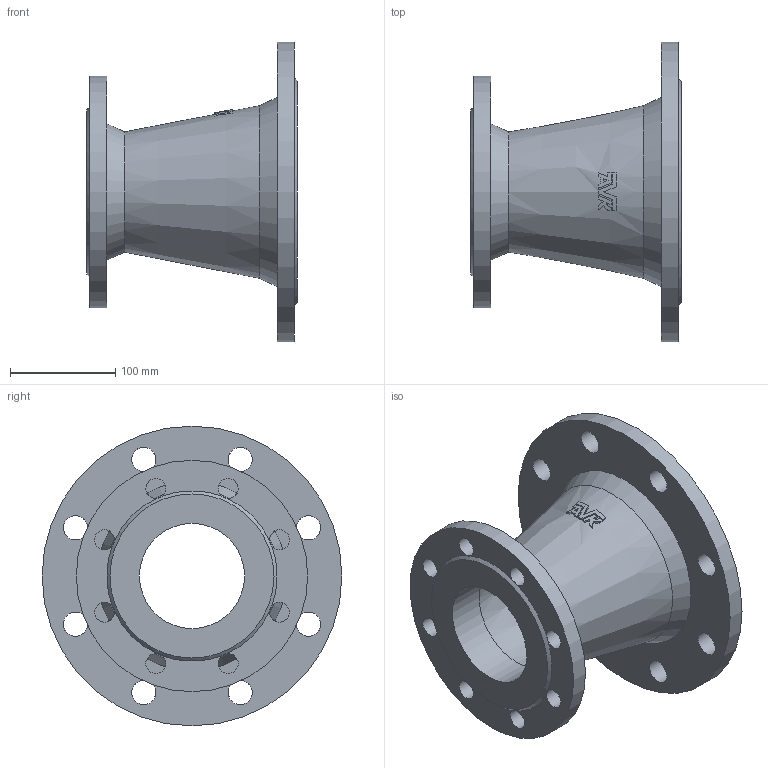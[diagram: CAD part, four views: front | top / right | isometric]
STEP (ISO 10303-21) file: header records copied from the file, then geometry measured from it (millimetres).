
FILE_DESCRIPTION (( 'STEP AP203' ), '1' );
FILE_NAME ('O_712_2210_DN150_DN100_1X_REV01.step', '2024-08-14T11:55:24', ( '' ), ( '' ), 'SwSTEP 2.0', 'SolidWorks 2022', '' );
FILE_SCHEMA (( 'CONFIG_CONTROL_DESIGN' ));
Length unit declared in the file: millimetre
Products named in the file (1): O_712_2210_DN150_DN100_1X_REV01
Bounding box: 200 x 285 x 285 mm (x, y, z)
Volume: 1762440.3 mm3; surface area: 326199.5 mm2
Topology: 1 solids, 1 shells, 81 faces, 235 edges, 147 vertices
Faces by surface type: plane 49, cylinder 22, cone 10
Full cylindrical faces by diameter (mm): 19 x8, 23 x8, 100 x1, 150 x1, 220 x1, 285 x1
Entity records: 2586 total; most frequent: CARTESIAN_POINT 573, DIRECTION 421, ORIENTED_EDGE 378, AXIS2_PLACEMENT_3D 192, EDGE_CURVE 189, EDGE_LOOP 133, VERTEX_POINT 128, CIRCLE 110
